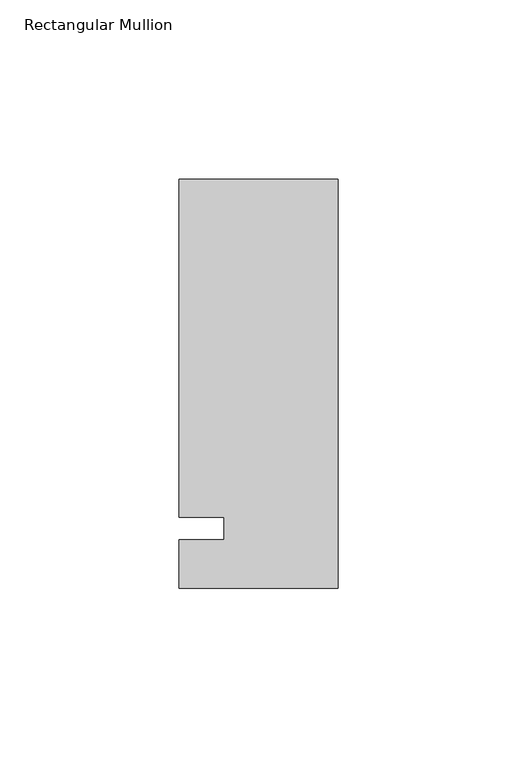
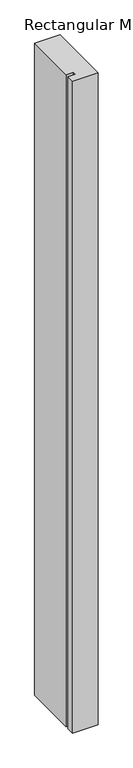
"""IFC4 building model written with IfcOpenShell, lengths in millimetres: member geometry, Rectangular Mullion : Kawneer-TRIFAB_VG_450_BACK_SB_Head."""

from ifc_helpers import new_model, si_unit, frame, origin, place, context, project, spatial, polyline, outline, extrude, source, transform, mapped, element, save


def rectangular_mullion_f8c7f91d(model_context):
    return source(origin(), model_context, "Body", "SweptSolid", [
        extrude(outline(polyline([(-44.45, -16.66875), (-44.45, -3.175), (-31.7482296, -3.175), (-31.7482296, 3.175), (-44.45, 3.175), (-44.45, 97.63125), (0.0, 97.63125), (0.0, -16.66875), (-44.45, -16.66875)])), frame((0.0, 0.0, -1199.5940926), z_axis=(0.0, 0.0, 1.0), x_axis=(1.0, 0.0, 0.0)), (0.0, 0.0, 1.0), 1199.5940926),
    ])


if __name__ == "__main__":
    model = new_model("IFC4")
    model_context = context("Model", 3, world=origin())
    ifc_project = project(units=[si_unit("LENGTHUNIT", "METRE", prefix="MILLI")], contexts=[model_context])
    site = spatial("IfcSite", under=ifc_project)
    building = spatial("IfcBuilding", under=site)
    placement = place(None, origin())
    rectangular_mullion_shape = rectangular_mullion_f8c7f91d(model_context)
    element("IfcMember", 1, ObjectType="Rectangular Mullion : Kawneer-TRIFAB_VG_450_BACK_SB_Head", at=placement, inside=building, context=model_context, shape_type="MappedRepresentation", body=[
        mapped(rectangular_mullion_shape, transform((0.0, 0.0, 0.0), x_axis=(1.0, 0.0, 0.0), y_axis=(0.0, 1.0, 0.0), z_axis=(0.0, 0.0, 1.0))),
    ])
    save(model, "model.ifc")
